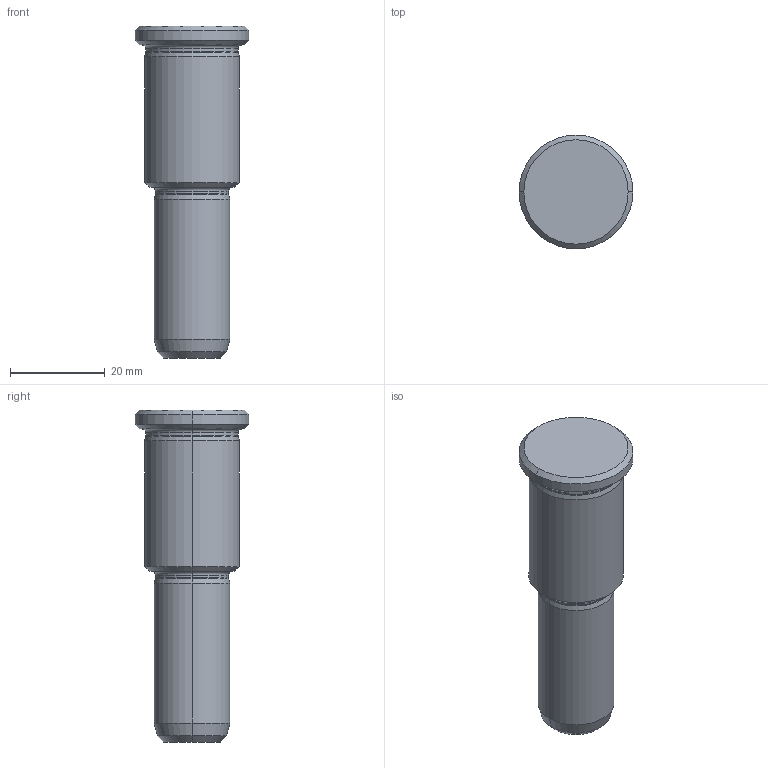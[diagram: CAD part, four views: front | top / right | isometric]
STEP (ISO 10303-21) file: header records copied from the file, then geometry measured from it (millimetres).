
FILE_DESCRIPTION (( 'STEP AP214' ), '1' );
FILE_NAME ('BRGC 16x34x36.STEP', '2019-12-19T09:46:28', ( 'August' ), ( '' ), 'SwSTEP 2.0', 'SolidWorks 2018', '' );
FILE_SCHEMA (( 'AUTOMOTIVE_DESIGN' ));
Length unit declared in the file: millimetre
Products named in the file (1): BRGC 16x34x36
Bounding box: 24 x 24 x 70 mm (x, y, z)
Volume: 18187.7 mm3; surface area: 4684.7 mm2
Topology: 1 solids, 1 shells, 36 faces, 70 edges, 38 vertices
Faces by surface type: cone 14, cylinder 10, torus 8, plane 4
Entity records: 946 total; most frequent: DIRECTION 190, CARTESIAN_POINT 145, ORIENTED_EDGE 140, AXIS2_PLACEMENT_3D 83, EDGE_CURVE 70, CIRCLE 46, EDGE_LOOP 38, VERTEX_POINT 38
